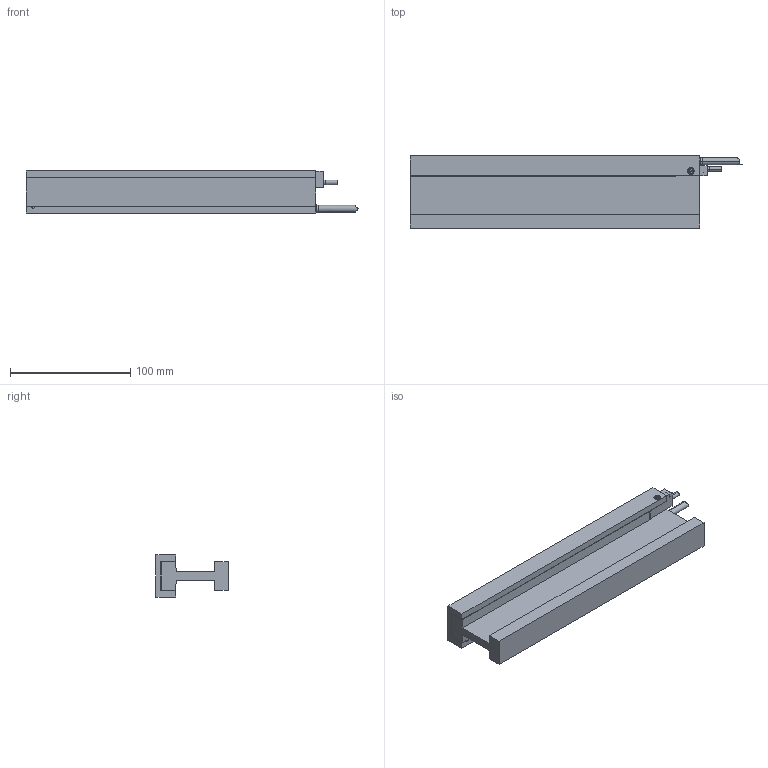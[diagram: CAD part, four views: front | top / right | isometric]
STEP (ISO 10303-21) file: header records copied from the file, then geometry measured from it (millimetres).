
FILE_DESCRIPTION (( 'STEP AP214' ), '1' );
FILE_NAME ('DX30F-C4 -REV.step', '2022-05-06T02:56:52', ( '' ), ( '' ), 'SwSTEP 2.0', 'SolidWorks 2020', '' );
FILE_SCHEMA (( 'AUTOMOTIVE_DESIGN' ));
Length unit declared in the file: millimetre
Products named in the file (1): DX30F-C4 -REV
Bounding box: 276 x 60 x 35 mm (x, y, z)
Volume: 256539.3 mm3; surface area: 82712.3 mm2
Topology: 7 solids, 8 shells, 214 faces, 506 edges, 294 vertices
Faces by surface type: plane 89, cylinder 69, cone 48, torus 8
Entity records: 8325 total; most frequent: CARTESIAN_POINT 1070, DIRECTION 1050, ORIENTED_EDGE 932, EDGE_CURVE 466, AXIS2_PLACEMENT_3D 382, VERTEX_POINT 294, VECTOR 286, LINE 286
